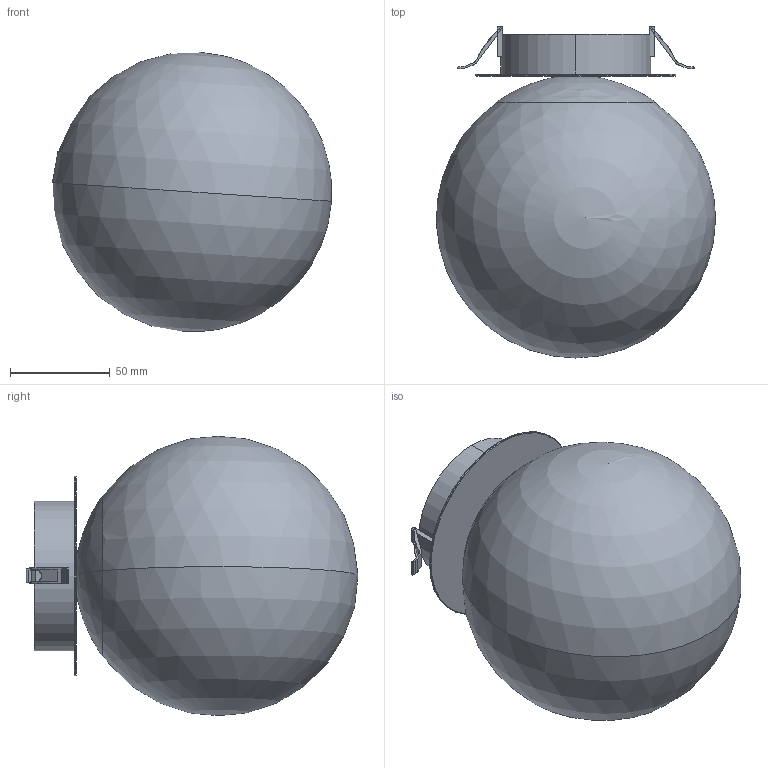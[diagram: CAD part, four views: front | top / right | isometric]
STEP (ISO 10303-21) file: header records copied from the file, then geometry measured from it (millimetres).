
FILE_DESCRIPTION (( 'STEP AP214' ), '1' );
FILE_NAME ('BALL_DIAM14_empotrable.STEP', '2026-03-30T08:06:18', ( '' ), ( '' ), 'SwSTEP 2.0', 'SolidWorks 2023', '' );
FILE_SCHEMA (( 'AUTOMOTIVE_DESIGN' ));
Length unit declared in the file: millimetre
Products named in the file (3): bola ball; BALL_DIAM14_empotrable; EP1279
Assembly tree (2 placements, depth 2):
  BALL_DIAM14_empotrable
    EP1279
    bola ball
Bounding box: 139.64 x 166.1 x 139.7 mm (x, y, z)
Volume: 1462337 mm3; surface area: 88877.6 mm2
Topology: 6 solids, 6 shells, 102 faces, 261 edges, 172 vertices
Faces by surface type: plane 54, cylinder 38, bspline 4, torus 4, sphere 2
Entity records: 3274 total; most frequent: CARTESIAN_POINT 628, DIRECTION 548, ORIENTED_EDGE 512, EDGE_CURVE 256, AXIS2_PLACEMENT_3D 199, VERTEX_POINT 169, VECTOR 150, LINE 150
